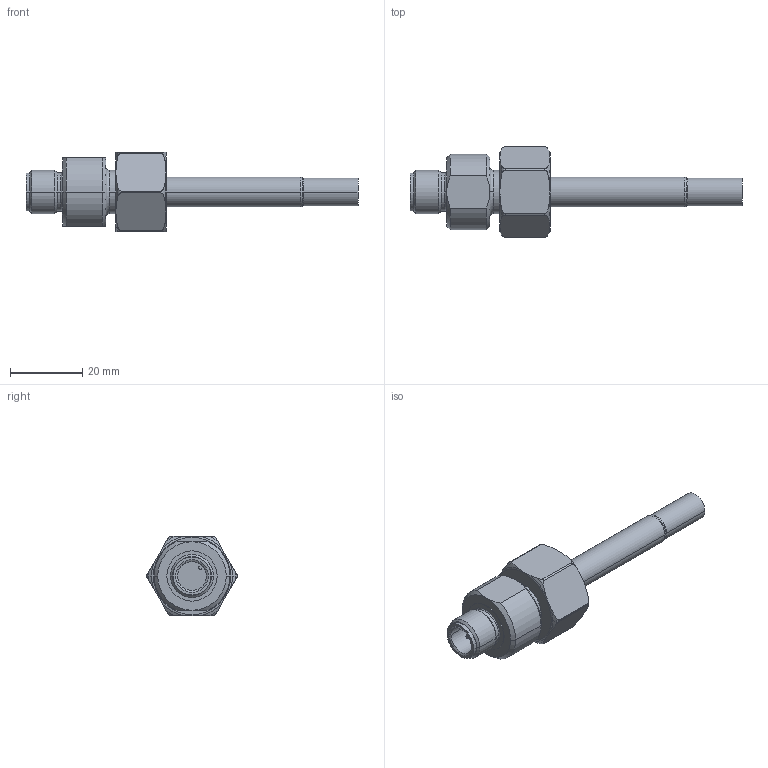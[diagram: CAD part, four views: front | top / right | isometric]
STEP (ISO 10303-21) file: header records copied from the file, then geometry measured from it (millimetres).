
FILE_DESCRIPTION( ( '' ), '1' );
FILE_NAME( '//expscmdclustefs.cadenas.external/client_exchange/iodir/jobs/output/wkb39663037_no0/STEP/sf5201_2_03_56fa68aab0d912ba39a93ed9979b71de.stp', '2011-12-01T09:23:42', ( '' ), ( '' ), ' ', ' ', ' ' );
FILE_SCHEMA( ( 'CONFIG_CONTROL_DESIGN' ) );
Length unit declared in the file: millimetre
Products named in the file (1): 1
Bounding box: 92.2 x 25.09 x 22 mm (x, y, z)
Volume: 12150.1 mm3; surface area: 6206.4 mm2
Topology: 1 solids, 1 shells, 141 faces, 363 edges, 237 vertices
Faces by surface type: cone 42, cylinder 39, torus 34, plane 26
Entity records: 4944 total; most frequent: CARTESIAN_POINT 1430, DIRECTION 786, ORIENTED_EDGE 726, EDGE_CURVE 363, AXIS2_PLACEMENT_3D 353, VERTEX_POINT 237, CIRCLE 211, EDGE_LOOP 154
